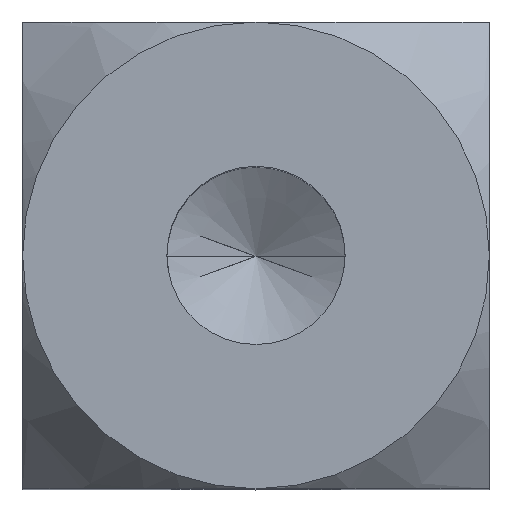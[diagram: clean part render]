
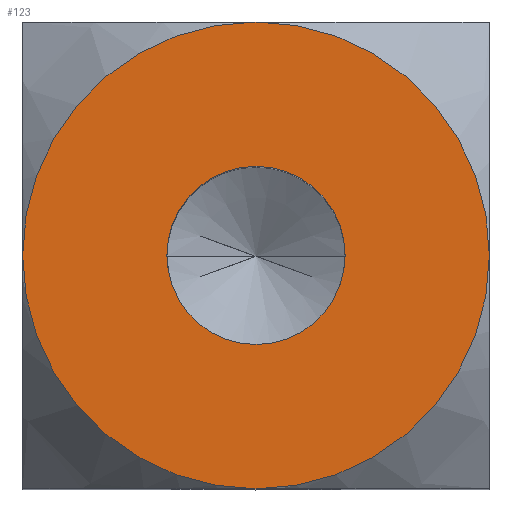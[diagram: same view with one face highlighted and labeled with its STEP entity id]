
A CAD part, top view. The second image highlights one B-rep face of the part: STEP entity #123.
In plain terms, the highlighted planar face has unit normal (0, 0, 1).
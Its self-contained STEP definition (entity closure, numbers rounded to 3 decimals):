
#59 = AXIS2_PLACEMENT_3D ( 'NONE', #906, #1085, #744 ) ;
#68 = DIRECTION ( 'NONE',  ( 0., 0., 1. ) ) ;
#76 = ORIENTED_EDGE ( 'NONE', *, *, #292, .T. ) ;
#87 = CIRCLE ( 'NONE', #460, 2.1 ) ;
#99 = VERTEX_POINT ( 'NONE', #856 ) ;
#123 = ADVANCED_FACE ( 'NONE', ( #322, #679 ), #351, .T. ) ;
#148 = DIRECTION ( 'NONE',  ( -1., 0., 0. ) ) ;
#195 = AXIS2_PLACEMENT_3D ( 'NONE', #758, #753, #148 ) ;
#198 = EDGE_CURVE ( 'NONE', #264, #925, #87, .T. ) ;
#200 = CIRCLE ( 'NONE', #530, 5.5 ) ;
#208 = ORIENTED_EDGE ( 'NONE', *, *, #579, .T. ) ;
#225 = DIRECTION ( 'NONE',  ( -1., 0., 0. ) ) ;
#253 = CIRCLE ( 'NONE', #294, 5.5 ) ;
#264 = VERTEX_POINT ( 'NONE', #315 ) ;
#271 = VERTEX_POINT ( 'NONE', #1011 ) ;
#277 = VERTEX_POINT ( 'NONE', #485 ) ;
#292 = EDGE_CURVE ( 'NONE', #271, #99, #253, .T. ) ;
#294 = AXIS2_PLACEMENT_3D ( 'NONE', #578, #742, #410 ) ;
#305 = CARTESIAN_POINT ( 'NONE',  ( 0., 0., 16. ) ) ;
#312 = EDGE_CURVE ( 'NONE', #629, #271, #200, .T. ) ;
#315 = CARTESIAN_POINT ( 'NONE',  ( 2.1, 0., 16. ) ) ;
#322 = FACE_BOUND ( 'NONE', #948, .T. ) ;
#323 = AXIS2_PLACEMENT_3D ( 'NONE', #619, #68, #781 ) ;
#351 = PLANE ( 'NONE',  #1034 ) ;
#404 = CARTESIAN_POINT ( 'NONE',  ( -2.1, 0., 16. ) ) ;
#410 = DIRECTION ( 'NONE',  ( -1., 0., 0. ) ) ;
#433 = DIRECTION ( 'NONE',  ( 0., -1., 0. ) ) ;
#460 = AXIS2_PLACEMENT_3D ( 'NONE', #521, #867, #433 ) ;
#475 = DIRECTION ( 'NONE',  ( 0., 0., 1. ) ) ;
#485 = CARTESIAN_POINT ( 'NONE',  ( 0., -5.5, 16. ) ) ;
#521 = CARTESIAN_POINT ( 'NONE',  ( 0., 0., 16. ) ) ;
#530 = AXIS2_PLACEMENT_3D ( 'NONE', #305, #475, #225 ) ;
#532 = EDGE_LOOP ( 'NONE', ( #898, #866, #76, #208 ) ) ;
#578 = CARTESIAN_POINT ( 'NONE',  ( 0., 0., 16. ) ) ;
#579 = EDGE_CURVE ( 'NONE', #99, #277, #1073, .T. ) ;
#619 = CARTESIAN_POINT ( 'NONE',  ( 0., 0., 16. ) ) ;
#629 = VERTEX_POINT ( 'NONE', #708 ) ;
#679 = FACE_OUTER_BOUND ( 'NONE', #532, .T. ) ;
#706 = ORIENTED_EDGE ( 'NONE', *, *, #198, .F. ) ;
#708 = CARTESIAN_POINT ( 'NONE',  ( 5.5, 0., 16. ) ) ;
#742 = DIRECTION ( 'NONE',  ( 0., 0., 1. ) ) ;
#744 = DIRECTION ( 'NONE',  ( 0., -1., 0. ) ) ;
#753 = DIRECTION ( 'NONE',  ( 0., 0., 1. ) ) ;
#758 = CARTESIAN_POINT ( 'NONE',  ( 0., 0., 16. ) ) ;
#759 = DIRECTION ( 'NONE',  ( 0., 0., 1. ) ) ;
#781 = DIRECTION ( 'NONE',  ( -1., 0., 0. ) ) ;
#808 = EDGE_CURVE ( 'NONE', #925, #264, #995, .T. ) ;
#814 = CIRCLE ( 'NONE', #195, 5.5 ) ;
#854 = CARTESIAN_POINT ( 'NONE',  ( -5.566, -5.566, 16. ) ) ;
#856 = CARTESIAN_POINT ( 'NONE',  ( -5.5, 0., 16. ) ) ;
#866 = ORIENTED_EDGE ( 'NONE', *, *, #312, .T. ) ;
#867 = DIRECTION ( 'NONE',  ( 0., 0., 1. ) ) ;
#898 = ORIENTED_EDGE ( 'NONE', *, *, #934, .T. ) ;
#906 = CARTESIAN_POINT ( 'NONE',  ( 0., 0., 16. ) ) ;
#925 = VERTEX_POINT ( 'NONE', #404 ) ;
#934 = EDGE_CURVE ( 'NONE', #277, #629, #814, .T. ) ;
#948 = EDGE_LOOP ( 'NONE', ( #706, #987 ) ) ;
#987 = ORIENTED_EDGE ( 'NONE', *, *, #808, .F. ) ;
#995 = CIRCLE ( 'NONE', #59, 2.1 ) ;
#1011 = CARTESIAN_POINT ( 'NONE',  ( 0., 5.5, 16. ) ) ;
#1034 = AXIS2_PLACEMENT_3D ( 'NONE', #854, #759, #1044 ) ;
#1044 = DIRECTION ( 'NONE',  ( 1., 0., 0. ) ) ;
#1073 = CIRCLE ( 'NONE', #323, 5.5 ) ;
#1085 = DIRECTION ( 'NONE',  ( 0., 0., 1. ) ) ;
